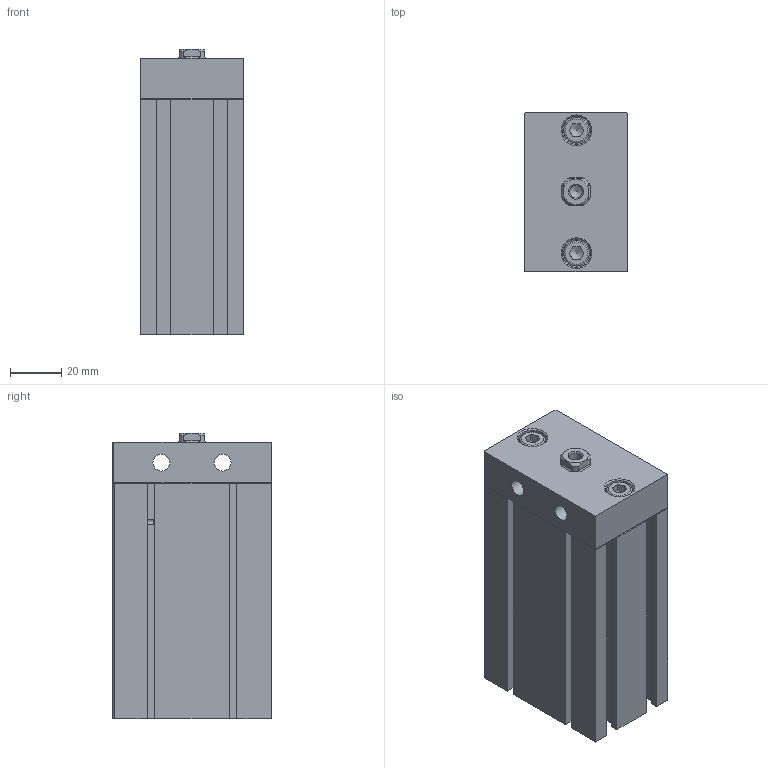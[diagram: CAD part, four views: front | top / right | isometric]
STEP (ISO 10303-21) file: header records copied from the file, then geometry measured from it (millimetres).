
FILE_DESCRIPTION((''),'2;1');
FILE_NAME('I:\3D電子目錄\氣缸\ND\ND\ND32\ND32x60.stp','2007-07-24T19:55:49',('Administrator'),(''),'Autodesk Inventor 11','Autodesk Inventor 11','');
FILE_SCHEMA(('AUTOMOTIVE_DESIGN { 1 0 10303 214 1 1 1 1 }'));
Length unit declared in the file: millimetre
Products named in the file (4): ND32; R 形環 34; ISO 4762 M6 x 16
Assembly tree (4 placements, depth 2):
  ND32
    ND32
    R 形環 34
    ISO 4762 M6 x 16  x2
Bounding box: 40 x 62.1 x 111.5 mm (x, y, z)
Volume: 235739 mm3; surface area: 46064.2 mm2
Topology: 5 solids, 5 shells, 195 faces, 479 edges, 305 vertices
Faces by surface type: plane 133, cylinder 25, cone 18, bspline 16, torus 3
Full cylindrical faces by diameter (mm): 1.9 x2, 2.2 x2, 6 x2, 6.5 x2, 10 x2, 11 x2, 23 x1, 34 x1, 36 x1
Entity records: 5301 total; most frequent: CARTESIAN_POINT 1111, DIRECTION 824, ORIENTED_EDGE 802, EDGE_CURVE 401, VECTOR 296, LINE 296, VERTEX_POINT 277, AXIS2_PLACEMENT_3D 264
